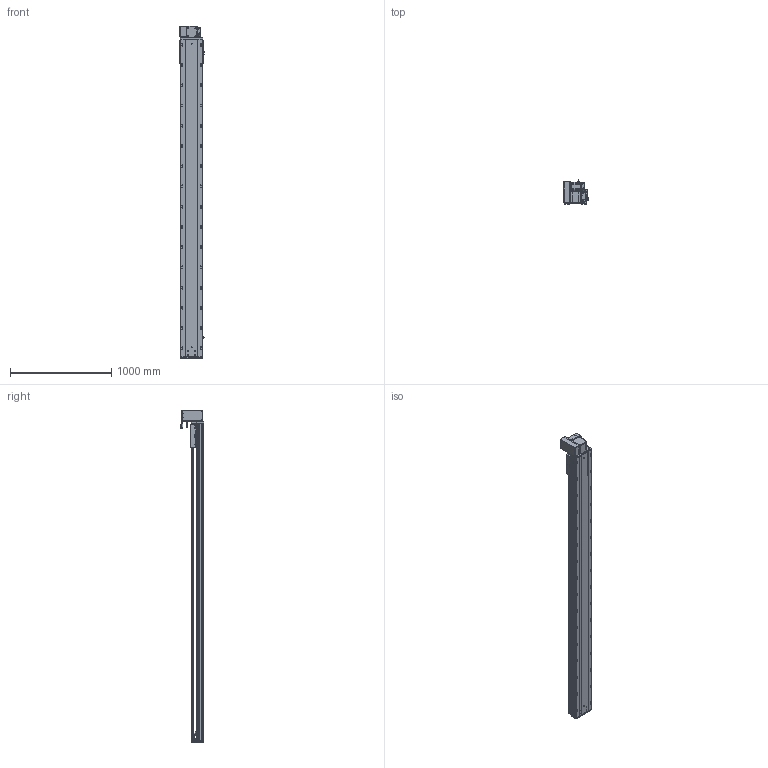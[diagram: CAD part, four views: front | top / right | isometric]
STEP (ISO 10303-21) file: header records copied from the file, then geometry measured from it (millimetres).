
FILE_DESCRIPTION (( 'STEP AP203' ), '1' );
FILE_NAME ('RY220-T-300-UL.SLDASM_2800.step', '2022-07-25T08:36:05', ( '' ), ( '' ), 'SwSTEP 2.0', 'SolidWorks 2016', '' );
FILE_SCHEMA (( 'CONFIG_CONTROL_DESIGN' ));
Length unit declared in the file: millimetre
Products named in the file (14): RY220-T-蛌殏萇儂假蚾啣(750W); RY220-T-300-UL.SLDASM_2800; 滅袉蝶18-15; 覜茼ん672; RY220翋肮祭謫釱; 110A-T-肮祭謫釱傷裔; RY220-T-300-奻裔啣_2800; RY220-T-湍謫欶(鍼踢); RY220-T菁釱-300_2800; RY220圉猾敕々湍臏賑輸; RY220-俋离672覜茼んえ; RY220翋肮祭謫裔啣; RY220-同步轮副支撑座6304×2; 怢湛750W_ECMA-CX0807ES
Assembly tree (18 placements, depth 2):
  RY220-T-300-UL.SLDASM_2800
    RY220-T菁釱-300_2800
    RY220翋肮祭謫釱
    覜茼ん672  x3
    RY220圉猾敕々湍臏賑輸
    RY220-T-300-奻裔啣_2800
    RY220-俋离672覜茼んえ
    滅袉蝶18-15  x3
    RY220翋肮祭謫裔啣  x2
    110A-T-肮祭謫釱傷裔
    怢湛750W_ECMA-CX0807ES
    RY220-T-湍謫欶(鍼踢)
    RY220-T-蛌殏萇儂假蚾啣(750W)
    RY220-同步轮副支撑座6304×2
Bounding box: 239.7 x 231.74 x 3280.5 mm (x, y, z)
Volume: 23910748.7 mm3; surface area: 7377035.7 mm2
Topology: 19 solids, 19 shells, 2990 faces, 8267 edges, 5178 vertices
Faces by surface type: cylinder 1470, plane 1069, cone 369, bspline 56, sphere 16, torus 10
Entity records: 99619 total; most frequent: CARTESIAN_POINT 28087, ORIENTED_EDGE 14778, DIRECTION 14264, EDGE_CURVE 7389, AXIS2_PLACEMENT_3D 5144, VERTEX_POINT 4802, VECTOR 3976, LINE 3976
